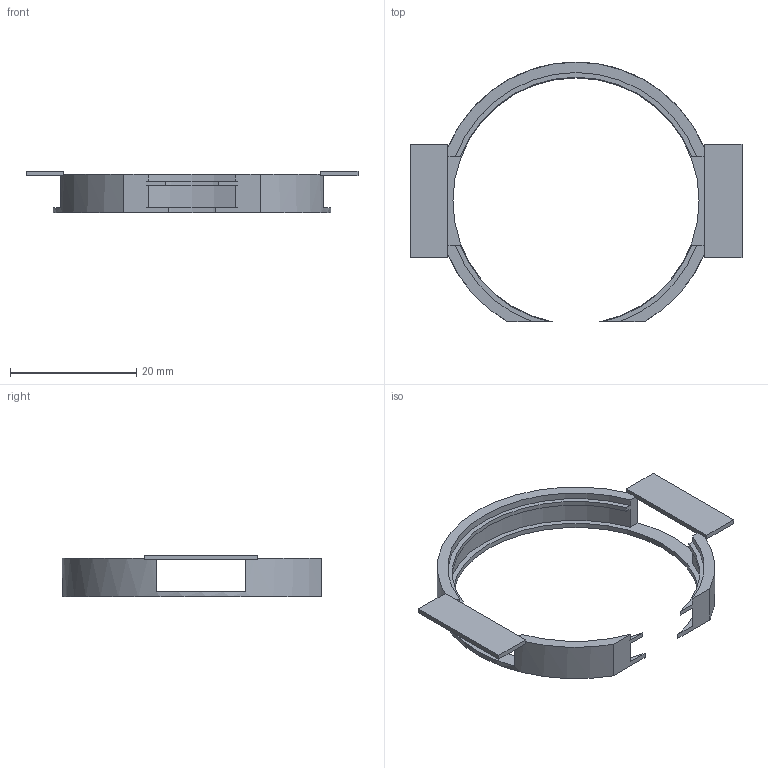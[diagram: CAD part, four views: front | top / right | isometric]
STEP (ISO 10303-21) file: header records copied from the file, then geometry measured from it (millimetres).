
FILE_DESCRIPTION(/* description */ ('EOS PA 2200, unfilled PA12; requested grade, RPS availability to confirm | SLS; bond ears to grille rear flange | Real 40 mm x 5 mm speaker with 53.8 mm mounting-ear span; rear cavity shared for first acoustic trial.'),/* implementation_level */ '2;1');
FILE_NAME(/* name */ '07_speaker_cradle.step',/* time_stamp */ '2026-09-04T21:00:00-07:00',/* author */ (''),/* organization */ (''),/* preprocessor_version */ 'ST-DEVELOPER v20.1',/* originating_system */ 'Autodesk Translation Framework v15.8.0.0',/* authorisation */ '');
FILE_SCHEMA (('AUTOMOTIVE_DESIGN { 1 0 10303 214 3 1 1 }'));
Length unit declared in the file: centimetre
Products named in the file (2): 2026-09-04-21-00-00-621; 2026-09-04-21-00-00-621_1
Assembly tree (1 placements, depth 2):
  2026-09-04-21-00-00-621
    2026-09-04-21-00-00-621_1
Bounding box: 52.6 x 41.15 x 6.65 mm (x, y, z)
Volume: 1186.9 mm3; surface area: 2392.6 mm2
Topology: 1 solids, 1 shells, 40 faces, 126 edges, 84 vertices
Faces by surface type: plane 29, cylinder 11
Entity records: 1461 total; most frequent: CARTESIAN_POINT 253, ORIENTED_EDGE 252, DIRECTION 242, EDGE_CURVE 126, LINE 96, VECTOR 96, VERTEX_POINT 84, AXIS2_PLACEMENT_3D 73
